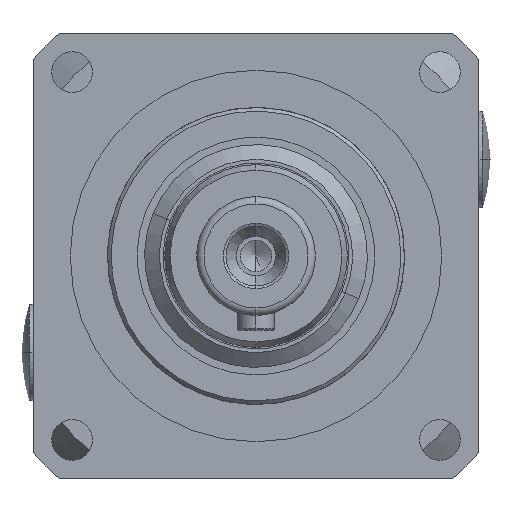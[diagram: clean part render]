
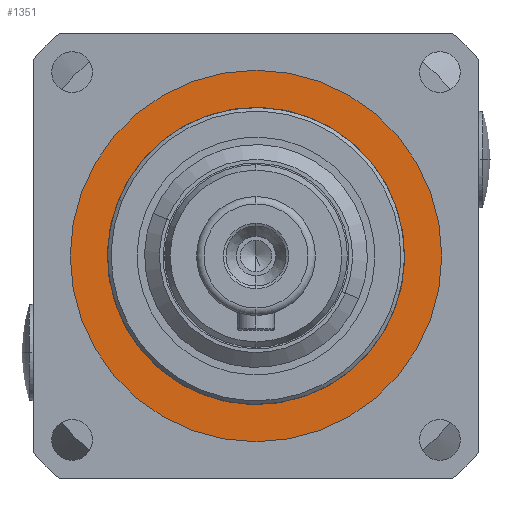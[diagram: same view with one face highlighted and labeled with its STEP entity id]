
A CAD part, left-side view. The second image highlights one B-rep face of the part: STEP entity #1351.
In plain terms, the highlighted planar face has unit normal (-1, 0, 0).
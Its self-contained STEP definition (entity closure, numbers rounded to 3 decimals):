
#436 = CIRCLE ( 'NONE', #12343, 20. ) ;
#580 = CARTESIAN_POINT ( 'NONE',  ( -70., 0., 0. ) ) ;
#622 = VERTEX_POINT ( 'NONE', #9367 ) ;
#750 = AXIS2_PLACEMENT_3D ( 'NONE', #11666, #4903, #12818 ) ;
#993 = DIRECTION ( 'NONE',  ( 0., 0., 1. ) ) ;
#1351 = ADVANCED_FACE ( 'NONE', ( #8764, #3140 ), #5058, .T. ) ;
#1710 = DIRECTION ( 'NONE',  ( 0., 0., 1. ) ) ;
#1841 = AXIS2_PLACEMENT_3D ( 'NONE', #3020, #10923, #4175 ) ;
#2280 = AXIS2_PLACEMENT_3D ( 'NONE', #580, #8484, #1710 ) ;
#2553 = EDGE_CURVE ( 'NONE', #12985, #11454, #14566, .T. ) ;
#2747 = CARTESIAN_POINT ( 'NONE',  ( -70., 0., 25. ) ) ;
#3020 = CARTESIAN_POINT ( 'NONE',  ( -70., 0., 0. ) ) ;
#3140 = FACE_OUTER_BOUND ( 'NONE', #11324, .T. ) ;
#3680 = ORIENTED_EDGE ( 'NONE', *, *, #11801, .T. ) ;
#3709 = AXIS2_PLACEMENT_3D ( 'NONE', #8281, #6183, #14076 ) ;
#4175 = DIRECTION ( 'NONE',  ( 0., 0., 1. ) ) ;
#4903 = DIRECTION ( 'NONE',  ( -1., 0., 0. ) ) ;
#4972 = VERTEX_POINT ( 'NONE', #5897 ) ;
#5058 = PLANE ( 'NONE',  #3709 ) ;
#5897 = CARTESIAN_POINT ( 'NONE',  ( -70., 0., 20. ) ) ;
#6183 = DIRECTION ( 'NONE',  ( -1., 0., 0. ) ) ;
#7340 = CARTESIAN_POINT ( 'NONE',  ( -70., 0., -25. ) ) ;
#7784 = DIRECTION ( 'NONE',  ( -1., 0., 0. ) ) ;
#8281 = CARTESIAN_POINT ( 'NONE',  ( -70., 0., 0. ) ) ;
#8484 = DIRECTION ( 'NONE',  ( -1., 0., 0. ) ) ;
#8598 = EDGE_LOOP ( 'NONE', ( #9530, #12295 ) ) ;
#8764 = FACE_BOUND ( 'NONE', #8598, .T. ) ;
#9367 = CARTESIAN_POINT ( 'NONE',  ( -70., 0., -20. ) ) ;
#9530 = ORIENTED_EDGE ( 'NONE', *, *, #14091, .F. ) ;
#10923 = DIRECTION ( 'NONE',  ( -1., 0., 0. ) ) ;
#11324 = EDGE_LOOP ( 'NONE', ( #14153, #3680 ) ) ;
#11454 = VERTEX_POINT ( 'NONE', #2747 ) ;
#11640 = CIRCLE ( 'NONE', #2280, 20. ) ;
#11666 = CARTESIAN_POINT ( 'NONE',  ( -70., 0., 0. ) ) ;
#11801 = EDGE_CURVE ( 'NONE', #11454, #12985, #14660, .T. ) ;
#12295 = ORIENTED_EDGE ( 'NONE', *, *, #13476, .F. ) ;
#12343 = AXIS2_PLACEMENT_3D ( 'NONE', #14562, #7784, #993 ) ;
#12818 = DIRECTION ( 'NONE',  ( 0., 0., 1. ) ) ;
#12985 = VERTEX_POINT ( 'NONE', #7340 ) ;
#13476 = EDGE_CURVE ( 'NONE', #622, #4972, #11640, .T. ) ;
#14076 = DIRECTION ( 'NONE',  ( 0., 0., 1. ) ) ;
#14091 = EDGE_CURVE ( 'NONE', #4972, #622, #436, .T. ) ;
#14153 = ORIENTED_EDGE ( 'NONE', *, *, #2553, .T. ) ;
#14562 = CARTESIAN_POINT ( 'NONE',  ( -70., 0., 0. ) ) ;
#14566 = CIRCLE ( 'NONE', #750, 25. ) ;
#14660 = CIRCLE ( 'NONE', #1841, 25. ) ;
